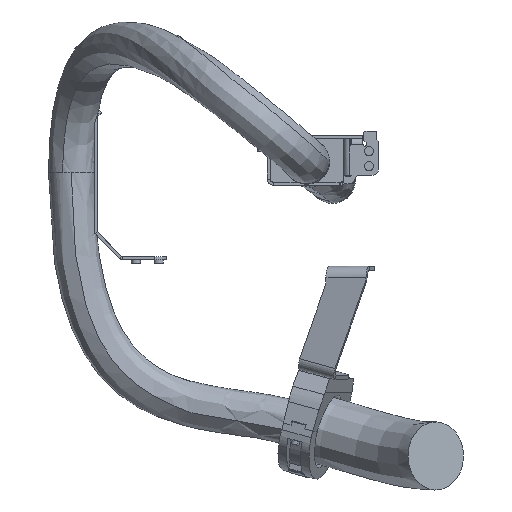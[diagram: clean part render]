
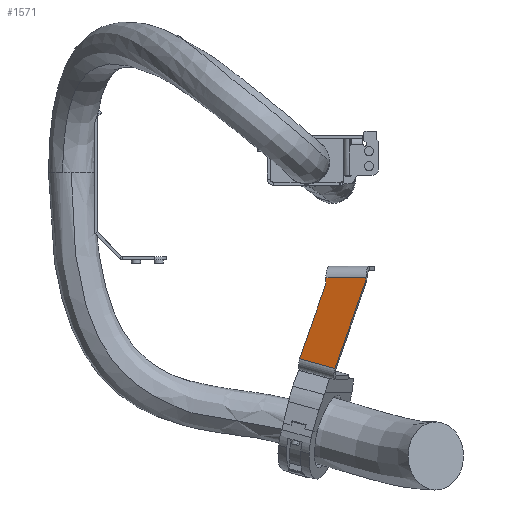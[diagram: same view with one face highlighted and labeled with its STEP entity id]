
A CAD part, top view. The second image highlights one B-rep face of the part: STEP entity #1571.
In plain terms, the highlighted planar face has unit normal (-0.259, 0, 0.966).
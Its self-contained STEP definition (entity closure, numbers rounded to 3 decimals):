
#182 = DIRECTION ( 'NONE',  ( 0., 1., 0. ) ) ;
#251 = CARTESIAN_POINT ( 'NONE',  ( 21.149, -139.947, 510.039 ) ) ;
#343 = PLANE ( 'NONE',  #8329 ) ;
#530 = ORIENTED_EDGE ( 'NONE', *, *, #11622, .T. ) ;
#583 = EDGE_CURVE ( 'NONE', #13559, #9084, #9882, .T. ) ;
#636 = CARTESIAN_POINT ( 'NONE',  ( 21.149, -139., 510.039 ) ) ;
#748 = AXIS2_PLACEMENT_3D ( 'NONE', #8965, #11477, #1449 ) ;
#928 = CARTESIAN_POINT ( 'NONE',  ( 32.974, -259., 513.208 ) ) ;
#1149 = EDGE_CURVE ( 'NONE', #9084, #6083, #8499, .T. ) ;
#1449 = DIRECTION ( 'NONE',  ( 0., 1., 0. ) ) ;
#1571 = ADVANCED_FACE ( 'NONE', ( #5284 ), #343, .F. ) ;
#1690 = CARTESIAN_POINT ( 'NONE',  ( 71.945, -148.15, 523.65 ) ) ;
#1702 = DIRECTION ( 'NONE',  ( -0.966, 0., -0.259 ) ) ;
#2474 = DIRECTION ( 'NONE',  ( -0.33, -0.94, -0.089 ) ) ;
#2795 = VERTEX_POINT ( 'NONE', #636 ) ;
#2813 = VERTEX_POINT ( 'NONE', #1690 ) ;
#3294 = CARTESIAN_POINT ( 'NONE',  ( 32.974, -259., 513.208 ) ) ;
#3343 = DIRECTION ( 'NONE',  ( 0.933, -0.259, 0.25 ) ) ;
#3943 = EDGE_CURVE ( 'NONE', #2813, #6054, #10980, .T. ) ;
#3961 = VECTOR ( 'NONE', #1702, 1000. ) ;
#4013 = EDGE_LOOP ( 'NONE', ( #15404, #9010, #530, #10351, #12800, #15940, #10967 ) ) ;
#4397 = CARTESIAN_POINT ( 'NONE',  ( -13.677, -246.059, 500.708 ) ) ;
#4740 = VECTOR ( 'NONE', #3343, 1000. ) ;
#5284 = FACE_OUTER_BOUND ( 'NONE', #4013, .T. ) ;
#5634 = CARTESIAN_POINT ( 'NONE',  ( 74.026, -139., 524.208 ) ) ;
#6054 = VERTEX_POINT ( 'NONE', #3294 ) ;
#6083 = VERTEX_POINT ( 'NONE', #10910 ) ;
#6239 = CARTESIAN_POINT ( 'NONE',  ( -13.677, -246.059, 500.708 ) ) ;
#6756 = LINE ( 'NONE', #4397, #4740 ) ;
#7260 = VECTOR ( 'NONE', #2474, 1000. ) ;
#7397 = DIRECTION ( 'NONE',  ( 0.259, 0., -0.966 ) ) ;
#7947 = CARTESIAN_POINT ( 'NONE',  ( 74.275, -124., 524.274 ) ) ;
#8329 = AXIS2_PLACEMENT_3D ( 'NONE', #7947, #15301, #9083 ) ;
#8499 = LINE ( 'NONE', #6239, #8561 ) ;
#8511 = VERTEX_POINT ( 'NONE', #5634 ) ;
#8561 = VECTOR ( 'NONE', #13435, 1000. ) ;
#8638 = CARTESIAN_POINT ( 'NONE',  ( 18.819, -153.628, 509.415 ) ) ;
#8686 = CARTESIAN_POINT ( 'NONE',  ( -17.488, -139.947, 499.686 ) ) ;
#8965 = CARTESIAN_POINT ( 'NONE',  ( 35.638, -134.47, 513.922 ) ) ;
#9010 = ORIENTED_EDGE ( 'NONE', *, *, #14032, .T. ) ;
#9083 = DIRECTION ( 'NONE',  ( 0., 1., 0. ) ) ;
#9084 = VERTEX_POINT ( 'NONE', #8638 ) ;
#9225 = CARTESIAN_POINT ( 'NONE',  ( 21.149, -124., 510.039 ) ) ;
#9365 = VECTOR ( 'NONE', #14314, 1000. ) ;
#9530 = CIRCLE ( 'NONE', #748, 40. ) ;
#9882 = CIRCLE ( 'NONE', #11417, 40. ) ;
#10118 = CARTESIAN_POINT ( 'NONE',  ( 74.275, -139., 524.274 ) ) ;
#10351 = ORIENTED_EDGE ( 'NONE', *, *, #12577, .T. ) ;
#10798 = EDGE_CURVE ( 'NONE', #6083, #6054, #6756, .T. ) ;
#10910 = CARTESIAN_POINT ( 'NONE',  ( -13.677, -246.059, 500.708 ) ) ;
#10967 = ORIENTED_EDGE ( 'NONE', *, *, #10798, .T. ) ;
#10980 = LINE ( 'NONE', #928, #7260 ) ;
#11417 = AXIS2_PLACEMENT_3D ( 'NONE', #8686, #7397, #182 ) ;
#11477 = DIRECTION ( 'NONE',  ( -0.259, 0., 0.966 ) ) ;
#11491 = LINE ( 'NONE', #10118, #3961 ) ;
#11622 = EDGE_CURVE ( 'NONE', #8511, #2795, #11491, .T. ) ;
#12577 = EDGE_CURVE ( 'NONE', #2795, #13559, #15678, .T. ) ;
#12800 = ORIENTED_EDGE ( 'NONE', *, *, #583, .T. ) ;
#13435 = DIRECTION ( 'NONE',  ( -0.33, -0.94, -0.089 ) ) ;
#13559 = VERTEX_POINT ( 'NONE', #251 ) ;
#14032 = EDGE_CURVE ( 'NONE', #2813, #8511, #9530, .T. ) ;
#14314 = DIRECTION ( 'NONE',  ( 0., -1., 0. ) ) ;
#15301 = DIRECTION ( 'NONE',  ( 0.259, 0., -0.966 ) ) ;
#15404 = ORIENTED_EDGE ( 'NONE', *, *, #3943, .F. ) ;
#15678 = LINE ( 'NONE', #9225, #9365 ) ;
#15940 = ORIENTED_EDGE ( 'NONE', *, *, #1149, .T. ) ;
